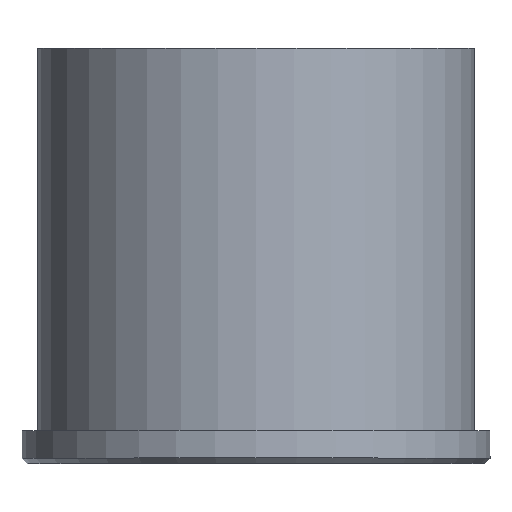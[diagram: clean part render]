
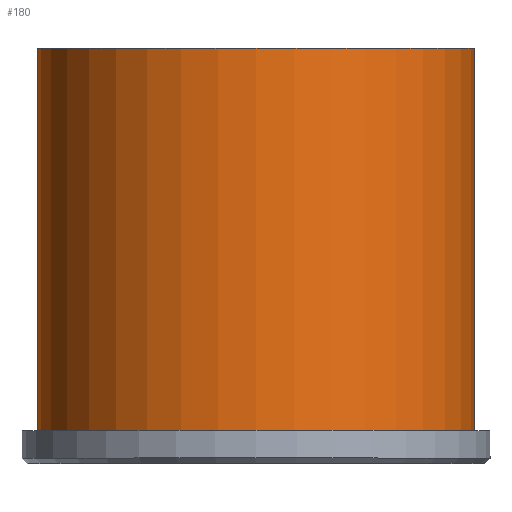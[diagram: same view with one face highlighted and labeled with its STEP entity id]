
A CAD part, top view. The second image highlights one B-rep face of the part: STEP entity #180.
In plain terms, the highlighted cylindrical face has radius 31.756 mm (diameter 63.513 mm), a partial arc.
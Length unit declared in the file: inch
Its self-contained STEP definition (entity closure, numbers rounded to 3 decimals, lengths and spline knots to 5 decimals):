
#160 = ORIENTED_EDGE ( 'NONE', *, *, #161, .F. ) ;
#161 = EDGE_CURVE ( 'NONE', #171, #162, #340, .T. ) ;
#162 = VERTEX_POINT ( 'NONE', #335 ) ;
#164 = ORIENTED_EDGE ( 'NONE', *, *, #170, .F. ) ;
#170 = EDGE_CURVE ( 'NONE', #185, #171, #323, .T. ) ;
#171 = VERTEX_POINT ( 'NONE', #319 ) ;
#180 = ADVANCED_FACE ( 'NONE', ( #376 ), #375, .T. ) ;
#181 = ORIENTED_EDGE ( 'NONE', *, *, #186, .T. ) ;
#182 = VERTEX_POINT ( 'NONE', #374 ) ;
#183 = ORIENTED_EDGE ( 'NONE', *, *, #184, .T. ) ;
#184 = EDGE_CURVE ( 'NONE', #185, #182, #367, .T. ) ;
#185 = VERTEX_POINT ( 'NONE', #362 ) ;
#186 = EDGE_CURVE ( 'NONE', #182, #162, #361, .T. ) ;
#187 = EDGE_LOOP ( 'NONE', ( #183, #181, #160, #164 ) ) ;
#319 = CARTESIAN_POINT ( 'NONE',  ( 1.25025, 0.1875, 0. ) ) ;
#320 = DIRECTION ( 'NONE',  ( 0., -1., 0. ) ) ;
#321 = VECTOR ( 'NONE', #320, 39.37008 ) ;
#322 = CARTESIAN_POINT ( 'NONE',  ( 1.25025, -39.37008, 0. ) ) ;
#323 = LINE ( 'NONE', #322, #321 ) ;
#335 = CARTESIAN_POINT ( 'NONE',  ( -1.25025, 0.1875, 0. ) ) ;
#336 = DIRECTION ( 'NONE',  ( 1., 0., 0. ) ) ;
#337 = DIRECTION ( 'NONE',  ( 0., -1., 0. ) ) ;
#338 = CARTESIAN_POINT ( 'NONE',  ( 0., 0.1875, 0. ) ) ;
#339 = AXIS2_PLACEMENT_3D ( 'NONE', #338, #337, #336 ) ;
#340 = CIRCLE ( 'NONE', #339, 1.25025 ) ;
#357 = DIRECTION ( 'NONE',  ( 0., -1., 0. ) ) ;
#358 = VECTOR ( 'NONE', #357, 39.37008 ) ;
#359 = CARTESIAN_POINT ( 'NONE',  ( -1.25025, -39.37008, 0. ) ) ;
#361 = LINE ( 'NONE', #359, #358 ) ;
#362 = CARTESIAN_POINT ( 'NONE',  ( 1.25025, 2.375, 0. ) ) ;
#363 = DIRECTION ( 'NONE',  ( 1., 0., 0. ) ) ;
#364 = DIRECTION ( 'NONE',  ( 0., -1., 0. ) ) ;
#365 = CARTESIAN_POINT ( 'NONE',  ( 0., 2.375, 0. ) ) ;
#366 = AXIS2_PLACEMENT_3D ( 'NONE', #365, #364, #363 ) ;
#367 = CIRCLE ( 'NONE', #366, 1.25025 ) ;
#370 = DIRECTION ( 'NONE',  ( 1., 0., 0. ) ) ;
#371 = DIRECTION ( 'NONE',  ( 0., -1., 0. ) ) ;
#372 = CARTESIAN_POINT ( 'NONE',  ( 0., -39.37008, 0. ) ) ;
#373 = AXIS2_PLACEMENT_3D ( 'NONE', #372, #371, #370 ) ;
#374 = CARTESIAN_POINT ( 'NONE',  ( -1.25025, 2.375, 0. ) ) ;
#375 = CYLINDRICAL_SURFACE ( 'NONE', #373, 1.25025 ) ;
#376 = FACE_OUTER_BOUND ( 'NONE', #187, .T. ) ;
